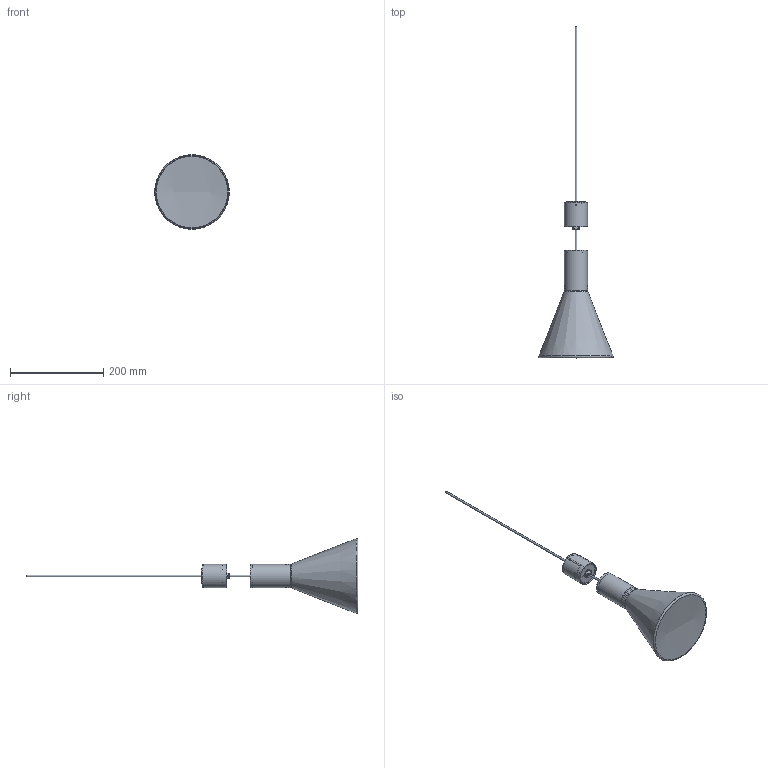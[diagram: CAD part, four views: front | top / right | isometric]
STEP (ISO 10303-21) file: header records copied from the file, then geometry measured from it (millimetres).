
FILE_DESCRIPTION(/* description */ (''),/* implementation_level */ '2;1');
FILE_NAME(/* name */ 'S:\UFFICIO TECNICO 2019\PRODOTTI ROTALIANA\SOUVLAKI\CONFIGURATORE\FILES X CONFIGURATORE\ipt INVENTOR\1SVH3002.stp',/* time_stamp */ '2024-03-13T18:03:42+01:00',/* author */ ('mtesta'),/* organization */ (''),/* preprocessor_version */ 'ST-DEVELOPER v18.1',/* originating_system */ 'Autodesk Inventor 2021',/* authorisation */ '');
FILE_SCHEMA (('AUTOMOTIVE_DESIGN { 1 0 10303 214 3 1 1 }','TECHNICAL_DATA_PACKAGING'));
Length unit declared in the file: millimetre
Products named in the file (1): 1SVH3002
Bounding box: 160 x 711.03 x 160 mm (x, y, z)
Volume: 207378.9 mm3; surface area: 210927.8 mm2
Topology: 9 solids, 9 shells, 877 faces, 2282 edges, 1416 vertices
Faces by surface type: cylinder 260, torus 211, plane 191, bspline 122, cone 81, sphere 12
Full cylindrical faces by diameter (mm): 2.013 x2, 2.459 x8, 3.242 x2, 3.25 x2, 3.5 x2, 4 x3, 6 x4, 8 x1, 10.5 x1, 12 x1, 16.9 x1, 18 x1, 38.4 x1, 40 x1, 42 x2, 46 x1, 46.5 x1, 47.5 x1, 48 x2, 48.2 x2, 50 x2
Entity records: 32005 total; most frequent: CARTESIAN_POINT 9421, DIRECTION 4722, ORIENTED_EDGE 4530, EDGE_CURVE 2265, AXIS2_PLACEMENT_3D 2015, VERTEX_POINT 1418, CIRCLE 1259, EDGE_LOOP 967
